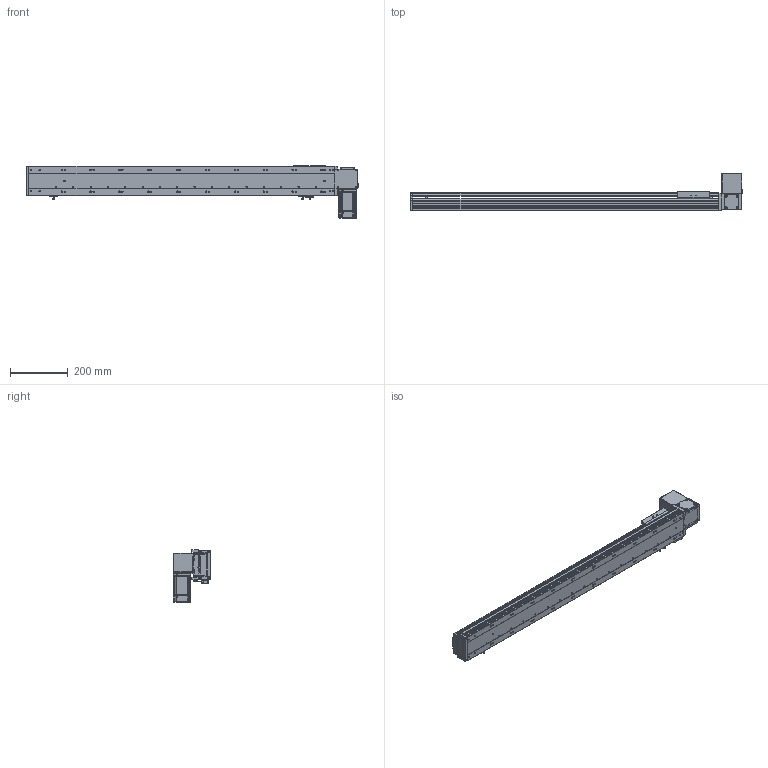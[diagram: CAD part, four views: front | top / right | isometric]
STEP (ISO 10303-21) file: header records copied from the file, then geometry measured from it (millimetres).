
FILE_DESCRIPTION (( 'STEP AP203' ), '1' );
FILE_NAME ('RY100-T-300-UL.SLDASM_850.step', '2024-04-25T08:39:49', ( '盈信电脑' ), ( '东莞市道滘镇水果街19号' ), 'SwSTEP 2.0', 'SolidWorks 2016', '' );
FILE_SCHEMA (( 'CONFIG_CONTROL_DESIGN' ));
Length unit declared in the file: millimetre
Products named in the file (15): RY100-T-300-RK倰第菁釱_850; RY100-T翋肮祭謫裔啣2; RY100-T粣創揤踡裔; RY100俋离覜茼え; RY100-T翋肮祭謫裔啣; 滅袉蝶18-10; RY100-T左右折电机安装板; 1; RY100-T-300-UL.SLDASM_850; RY100-T肮祭謫翋盓傅釱; RY80-T肮祭謫奻殏俋欶; RY100-T肮祭謫臏賑輸; RY100-T-300-RK倰第奻裔_850; RY100綴裔啣; 覜茼ん672
Assembly tree (17 placements, depth 2):
  RY100-T-300-UL.SLDASM_850
    RY100-T-300-RK倰第菁釱_850
    RY100-T-300-RK倰第奻裔_850
    RY100-T肮祭謫臏賑輸
    RY100綴裔啣
    覜茼ん672  x3
    RY100俋离覜茼え
    RY100-T肮祭謫翋盓傅釱
    滅袉蝶18-10  x2
    RY100-T翋肮祭謫裔啣2
    RY100-T翋肮祭謫裔啣
    1
    RY100-T左右折电机安装板
    RY80-T肮祭謫奻殏俋欶
    RY100-T粣創揤踡裔
Bounding box: 1150 x 130.5 x 182.5 mm (x, y, z)
Volume: 2383165.8 mm3; surface area: 976782.3 mm2
Topology: 17 solids, 17 shells, 2261 faces, 6310 edges, 4100 vertices
Faces by surface type: plane 1215, cylinder 831, cone 137, bspline 78
Entity records: 73380 total; most frequent: CARTESIAN_POINT 17923, ORIENTED_EDGE 11452, DIRECTION 10868, EDGE_CURVE 5726, VERTEX_POINT 3768, VECTOR 3664, LINE 3664, AXIS2_PLACEMENT_3D 3602
